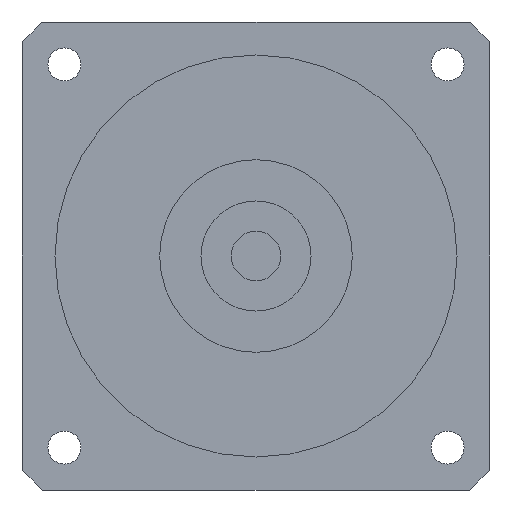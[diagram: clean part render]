
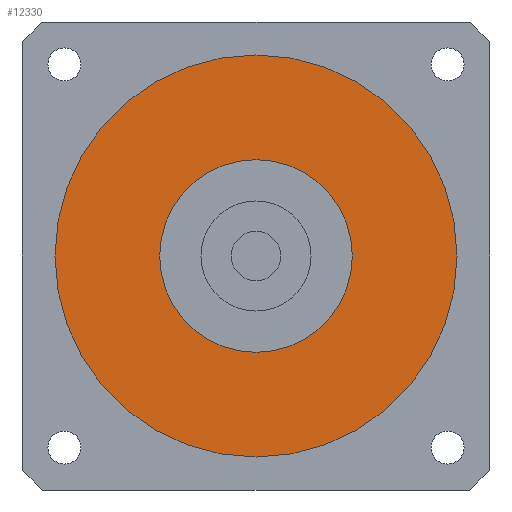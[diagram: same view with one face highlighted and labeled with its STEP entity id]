
A CAD part, left-side view. The second image highlights one B-rep face of the part: STEP entity #12330.
In plain terms, the highlighted planar face has unit normal (-1, 0, 0) as drawn and (0, 0, -1) by its records, which use the part's own axes.
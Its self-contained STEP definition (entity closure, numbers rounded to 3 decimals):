
#11900=CARTESIAN_POINT('',(0.,0.,
-92.5));
#11910=DIRECTION('',(0.,0.,1.));
#11920=DIRECTION('',(-1.,0.,0.));
#11930=AXIS2_PLACEMENT_3D('',#11900,#11910,#11920);
#11940=PLANE('',#11930);
#11950=CARTESIAN_POINT('',(0.,0.,
-92.5));
#11960=DIRECTION('',(0.,0.,1.));
#11970=DIRECTION('',(0.,-1.,0.));
#11980=AXIS2_PLACEMENT_3D('',#11950,#11960,#11970);
#11990=CIRCLE('',#11980,36.51);
#12000=CARTESIAN_POINT('',(0.,-36.51,-92.5));
#12010=VERTEX_POINT('',#12000);
#12020=CARTESIAN_POINT('',(36.51,0.,-92.5));
#12030=VERTEX_POINT('',#12020);
#12040=EDGE_CURVE('',#12010,#12030,#11990,.T.);
#12050=ORIENTED_EDGE('',*,*,#12040,.F.);
#12060=CARTESIAN_POINT('',(-36.51,0.,-92.5));
#12070=VERTEX_POINT('',#12060);
#12080=EDGE_CURVE('',#12030,#12070,#11990,.T.);
#12090=ORIENTED_EDGE('',*,*,#12080,.F.);
#12100=EDGE_CURVE('',#12070,#12010,#11990,.T.);
#12110=ORIENTED_EDGE('',*,*,#12100,.F.);
#12120=EDGE_LOOP('',(#12110,#12090,#12050));
#12130=FACE_OUTER_BOUND('',#12120,.T.);
#12140=CARTESIAN_POINT('',(0.,0.,
-92.5));
#12150=DIRECTION('',(0.,0.,1.));
#12160=DIRECTION('',(0.,-1.,0.));
#12170=AXIS2_PLACEMENT_3D('',#12140,#12150,#12160);
#12180=CIRCLE('',#12170,17.5);
#12190=CARTESIAN_POINT('',(17.5,0.,-92.5));
#12200=VERTEX_POINT('',#12190);
#12210=CARTESIAN_POINT('',(-17.5,0.,-92.5));
#12220=VERTEX_POINT('',#12210);
#12230=EDGE_CURVE('',#12200,#12220,#12180,.T.);
#12240=ORIENTED_EDGE('',*,*,#12230,.T.);
#12250=CARTESIAN_POINT('',(0.,-17.5,-92.5));
#12260=VERTEX_POINT('',#12250);
#12270=EDGE_CURVE('',#12260,#12200,#12180,.T.);
#12280=ORIENTED_EDGE('',*,*,#12270,.T.);
#12290=EDGE_CURVE('',#12220,#12260,#12180,.T.);
#12300=ORIENTED_EDGE('',*,*,#12290,.T.);
#12310=EDGE_LOOP('',(#12300,#12280,#12240));
#12320=FACE_BOUND('',#12310,.T.);
#12330=ADVANCED_FACE('',(#12130,#12320),#11940,.F.);
